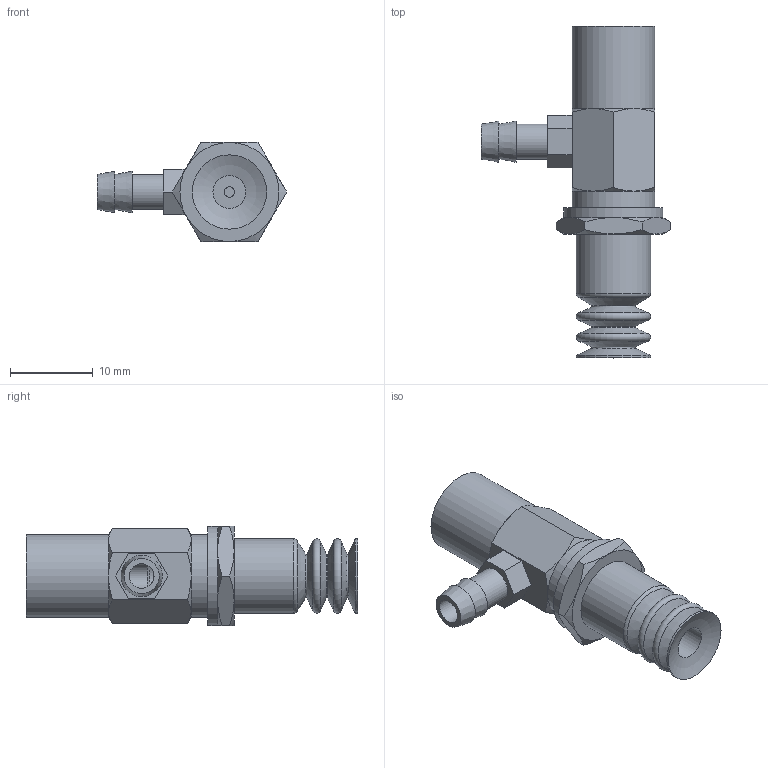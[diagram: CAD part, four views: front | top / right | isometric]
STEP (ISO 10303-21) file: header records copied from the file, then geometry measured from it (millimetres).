
FILE_DESCRIPTION(('STEP AP203'),'1');
FILE_NAME('.stp','2025-06-02T07:50:42',(' '),(' '),'Spatial InterOp 3D',' ',' ');
FILE_SCHEMA(('CONFIG_CONTROL_DESIGN'));
Length unit declared in the file: millimetre
Products named in the file (5): BBPCYK-10-※; Adapter-10-Y; PCYK-10; BPCG-10-※; PCYK-10(2)
Assembly tree (4 placements, depth 2):
  BBPCYK-10-※
    Adapter-10-Y
    PCYK-10
    BPCG-10-※
    PCYK-10(2)
Bounding box: 22.93 x 40.2 x 12 mm (x, y, z)
Volume: 2834 mm3; surface area: 2899.3 mm2
Topology: 4 solids, 4 shells, 107 faces, 228 edges, 136 vertices
Faces by surface type: cone 41, plane 37, cylinder 19, torus 8, sphere 2
Full cylindrical faces by diameter (mm): 1.25 x1, 3 x3, 3.242 x1, 4 x1, 4.134 x1, 4.26 x1, 5 x5, 9 x2, 10 x2, 12 x1
Entity records: 2954 total; most frequent: CARTESIAN_POINT 638, DIRECTION 432, ORIENTED_EDGE 364, AXIS2_PLACEMENT_3D 197, EDGE_CURVE 182, EDGE_LOOP 162, FACE_OUTER_BOUND 134, VERTEX_POINT 131
